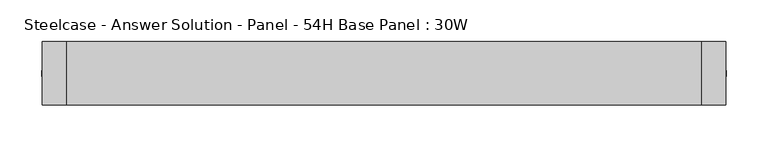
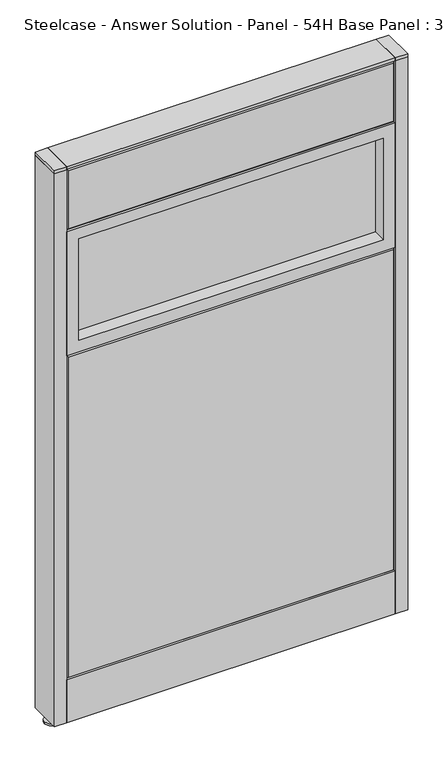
"""IFC4 building model written with IfcOpenShell, lengths in millimetres: furniture geometry, Steelcase - Answer Solution - Panel - 54H Base Panel : 30W."""

from ifc_helpers import new_model, si_unit, point, frame, frame_2d, origin, place, context, project, spatial, polyline, circle_curve, trimmed, segment, composite_curve, outline, extrude, faceted_brep, source, transform, mapped, element, save


def steelcase_answer_solution_panel_54h_base_panel_30w_21d02712(model_context):
    return source(origin(), model_context, "Body", "SolidModel", [
        extrude(outline(composite_curve([segment(trimmed(circle_curve(frame_2d((395.224, 0.0320214)), 5.08), [point((400.304, 0.0320214))], [point((390.144, 0.0320214))], False, "CARTESIAN"), True, "CONTINUOUS"), segment(trimmed(circle_curve(frame_2d((395.224, 0.0320214)), 5.08), [point((390.144, 0.0320214))], [point((400.304, 0.0320214))], False, "CARTESIAN"), True, "CONTINUOUS")], self_intersect=False)), frame((0.0, 0.0, 5.0799671), z_axis=(0.0, 0.0, 1.0), x_axis=(1.0, 0.0, 0.0)), (0.0, 0.0, 1.0), 10.414),
        extrude(outline(composite_curve([segment(trimmed(circle_curve(frame_2d((395.224, 0.0320214)), 15.24), [point((410.464, 0.0320214))], [point((379.984, 0.0320214))], False, "CARTESIAN"), True, "CONTINUOUS"), segment(trimmed(circle_curve(frame_2d((395.224, 0.0320214)), 15.24), [point((379.984, 0.0320214))], [point((410.464, 0.0320214))], False, "CARTESIAN"), True, "CONTINUOUS")], self_intersect=False)), frame((0.0, 0.0, -3.29e-05), z_axis=(0.0, 0.0, 1.0), x_axis=(1.0, 0.0, 0.0)), (0.0, 0.0, 1.0), 5.08),
        extrude(outline(polyline([(409.575, 38.1320408), (409.575, -38.0679592), (381.0, -38.0679592), (381.0, 38.1320408), (409.575, 38.1320408)])), frame((0.0, 0.0, 1370.6348), z_axis=(0.0, 0.0, 1.0), x_axis=(1.0, 0.0, 0.0)), (0.0, 0.0, 1.0), 7.3151671),
        extrude(outline(polyline([(409.575, 38.1320408), (409.575, -38.0679592), (381.0, -38.0679592), (381.0, 38.1320408), (409.575, 38.1320408)])), frame((0.0, 0.0, 15.4939671), z_axis=(0.0, 0.0, 1.0), x_axis=(1.0, 0.0, 0.0)), (0.0, 0.0, 1.0), 1355.1408329),
        extrude(outline(composite_curve([segment(trimmed(circle_curve(frame_2d((-395.224, 0.0320214)), 5.08), [point((-400.304, 0.0320214))], [point((-390.144, 0.0320214))], False, "CARTESIAN"), True, "CONTINUOUS"), segment(trimmed(circle_curve(frame_2d((-395.224, 0.0320214)), 5.08), [point((-390.144, 0.0320214))], [point((-400.304, 0.0320214))], False, "CARTESIAN"), True, "CONTINUOUS")], self_intersect=False)), frame((0.0, 0.0, 5.0799671), z_axis=(0.0, 0.0, 1.0), x_axis=(1.0, 0.0, 0.0)), (0.0, 0.0, 1.0), 10.414),
        extrude(outline(composite_curve([segment(trimmed(circle_curve(frame_2d((-395.224, 0.0320214)), 15.24), [point((-410.464, 0.0320214))], [point((-379.984, 0.0320214))], False, "CARTESIAN"), True, "CONTINUOUS"), segment(trimmed(circle_curve(frame_2d((-395.224, 0.0320214)), 15.24), [point((-379.984, 0.0320214))], [point((-410.464, 0.0320214))], False, "CARTESIAN"), True, "CONTINUOUS")], self_intersect=False)), frame((0.0, 0.0, -3.29e-05), z_axis=(0.0, 0.0, 1.0), x_axis=(1.0, 0.0, 0.0)), (0.0, 0.0, 1.0), 5.08),
        extrude(outline(polyline([(-409.575, 38.1320408), (-381.0, 38.1320408), (-381.0, -38.0679592), (-409.575, -38.0679592), (-409.575, 38.1320408)])), frame((0.0, 0.0, 1370.6348), z_axis=(0.0, 0.0, 1.0), x_axis=(1.0, 0.0, 0.0)), (0.0, 0.0, 1.0), 7.3151671),
        extrude(outline(polyline([(-409.575, 38.1320408), (-381.0, 38.1320408), (-381.0, -38.0679592), (-409.575, -38.0679592), (-409.575, 38.1320408)])), frame((0.0, 0.0, 15.4939671), z_axis=(0.0, 0.0, 1.0), x_axis=(1.0, 0.0, 0.0)), (0.0, 0.0, 1.0), 1355.1408329),
        extrude(outline(polyline([(-353.06, 6.346049), (353.06, 6.346049), (353.06, -6.353951), (-353.06, -6.353951), (-353.06, 6.346049)])), frame((0.0, 0.0, 942.34), z_axis=(0.0, 0.0, 1.0), x_axis=(1.0, 0.0, 0.0)), (0.0, 0.0, 1.0), 248.92),
        extrude(outline(polyline([(1219.2, -381.0), (914.4, -381.0), (914.4, 381.0), (1219.2, 381.0), (1219.2, -381.0)]), holes=[polyline([(1191.26, -353.06), (1191.26, 353.06), (942.34, 353.06), (942.34, -353.06), (1191.26, -353.06)])]), frame((0.0, -38.103951, 0.0), z_axis=(0.0, 1.0, 0.0), x_axis=(0.0, 0.0, 1.0)), (0.0, 0.0, 1.0), 76.2),
        faceted_brep([(-376.174, 38.1635011, 1366.774), (376.174, 38.1635011, 1366.774), (376.174, 38.1635011, 1224.026), (-376.174, 38.1635011, 1224.026), (-381.0, 33.3375011, 1371.6), (-381.0, 33.3375011, 1219.2), (381.0, 33.3375011, 1219.2), (381.0, 33.3375011, 1371.6)], [[[0, 1, 2, 3]], [[4, 5, 6, 7]], [[4, 7, 1, 0]], [[7, 6, 2, 1]], [[6, 5, 3, 2]], [[5, 4, 0, 3]]]),
        faceted_brep([(-376.174, 38.1635011, 909.574), (376.174, 38.1635011, 909.574), (376.174, 38.1635011, 125.476), (-376.174, 38.1635011, 125.476), (-381.0, 33.3375011, 914.4), (-381.0, 33.3375011, 120.65), (381.0, 33.3375011, 120.65), (381.0, 33.3375011, 914.4)], [[[0, 1, 2, 3]], [[4, 5, 6, 7]], [[4, 7, 1, 0]], [[7, 6, 2, 1]], [[6, 5, 3, 2]], [[5, 4, 0, 3]]]),
        extrude(outline(polyline([(353.06, -6.346049), (-353.06, -6.346049), (-353.06, 6.353951), (353.06, 6.353951), (353.06, -6.346049)])), frame((0.0, 0.0, 942.34), z_axis=(0.0, 0.0, 1.0), x_axis=(1.0, 0.0, 0.0)), (0.0, 0.0, 1.0), 248.92),
        extrude(outline(polyline([(1219.2, 381.0), (1219.2, -381.0), (914.4, -381.0), (914.4, 381.0), (1219.2, 381.0)]), holes=[polyline([(1191.26, 353.06), (942.34, 353.06), (942.34, -353.06), (1191.26, -353.06), (1191.26, 353.06)])]), frame((0.0, -38.096049, 0.0), z_axis=(0.0, 1.0, 0.0), x_axis=(0.0, 0.0, 1.0)), (0.0, 0.0, 1.0), 76.2),
        faceted_brep([(376.174, -38.1635011, 1366.774), (-376.174, -38.1635011, 1366.774), (-376.174, -38.1635011, 1224.026), (376.174, -38.1635011, 1224.026), (381.0, -33.3375011, 1371.6), (381.0, -33.3375011, 1219.2), (-381.0, -33.3375011, 1219.2), (-381.0, -33.3375011, 1371.6)], [[[0, 1, 2, 3]], [[4, 5, 6, 7]], [[4, 7, 1, 0]], [[7, 6, 2, 1]], [[6, 5, 3, 2]], [[5, 4, 0, 3]]]),
        faceted_brep([(376.174, -38.1635011, 909.574), (-376.174, -38.1635011, 909.574), (-376.174, -38.1635011, 125.476), (376.174, -38.1635011, 125.476), (381.0, -33.3375011, 914.4), (381.0, -33.3375011, 120.65), (-381.0, -33.3375011, 120.65), (-381.0, -33.3375011, 914.4)], [[[0, 1, 2, 3]], [[4, 5, 6, 7]], [[4, 7, 1, 0]], [[7, 6, 2, 1]], [[6, 5, 3, 2]], [[5, 4, 0, 3]]]),
        extrude(outline(polyline([(381.0, 38.1000194), (381.0, -38.1000194), (-381.0, -38.1000194), (-381.0, 38.1000194), (381.0, 38.1000194)])), frame((0.0, 0.0, 1371.6), z_axis=(0.0, 0.0, 1.0), x_axis=(1.0, 0.0, 0.0)), (0.0, 0.0, 1.0), 6.35),
        extrude(outline(polyline([(25.4000011, 119.8575157), (25.4000011, 120.65), (38.1000194, 120.65), (38.1000194, 15.494), (37.3075215, 15.494), (37.3075215, 119.8575157), (25.4000011, 119.8575157)])), frame((-381.0, 0.0, 0.0), z_axis=(1.0, 0.0, 0.0), x_axis=(0.0, 1.0, 0.0)), (0.0, 0.0, 1.0), 762.0),
        extrude(outline(polyline([(-25.4000011, 119.8575157), (-37.3075215, 119.8575157), (-37.3075215, 15.494), (-38.1000194, 15.494), (-38.1000194, 120.65), (-25.4000011, 120.65), (-25.4000011, 119.8575157)])), frame((-381.0, 0.0, 0.0), z_axis=(1.0, 0.0, 0.0), x_axis=(0.0, 1.0, 0.0)), (0.0, 0.0, 1.0), 762.0),
    ])


if __name__ == "__main__":
    model = new_model("IFC4")
    model_context = context("Model", 3, world=origin())
    ifc_project = project(units=[si_unit("LENGTHUNIT", "METRE", prefix="MILLI")], contexts=[model_context])
    site = spatial("IfcSite", under=ifc_project)
    building = spatial("IfcBuilding", under=site)
    placement = place(None, origin())
    steelcase_answer_solution_panel_54h_base_panel_30w_shape = steelcase_answer_solution_panel_54h_base_panel_30w_21d02712(model_context)
    element("IfcFurniture", 1, ObjectType="Steelcase - Answer Solution - Panel - 54H Base Panel : 30W", at=placement, inside=building, context=model_context, shape_type="MappedRepresentation", body=[
        mapped(steelcase_answer_solution_panel_54h_base_panel_30w_shape, transform((0.0, 0.0, 0.0), x_axis=(1.0, 0.0, 0.0), y_axis=(0.0, 1.0, 0.0), z_axis=(0.0, 0.0, 1.0))),
    ])
    save(model, "model.ifc")
